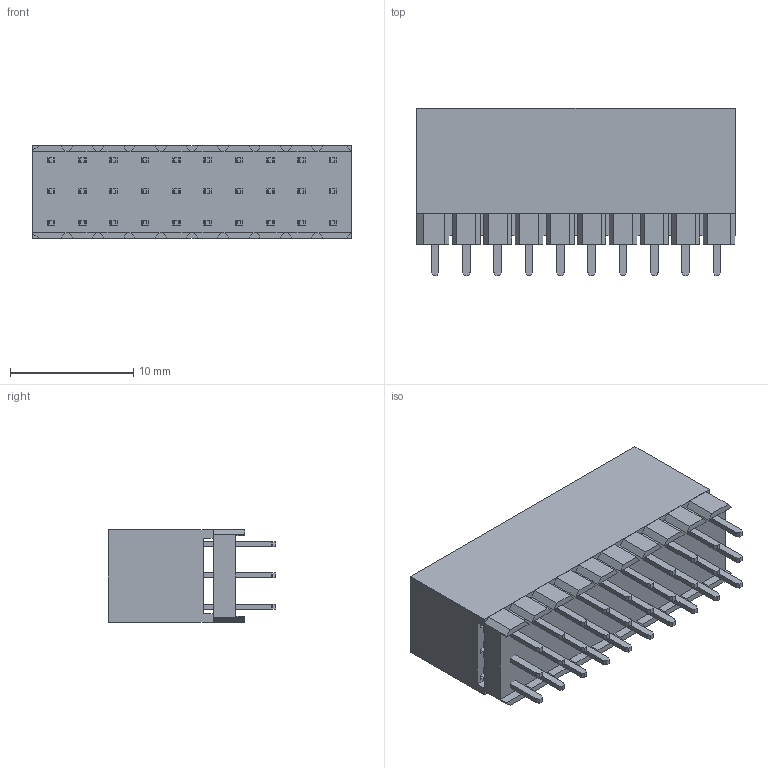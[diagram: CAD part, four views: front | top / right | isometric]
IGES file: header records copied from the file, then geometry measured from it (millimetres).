
Start section: SolidWorks IGES file using analytic representation for surfaces
Global section: file name: D:\RD\品管\3DS\未歸檔資料\2047-3X10G00S1U\2047-3X10C00S1U.IGS; native system: SolidWorks 2011; preprocessor: SolidWorks 2011; author: rd03; date: 150602.163459; units: millimetre
Bounding box: 25.8 x 13.58 x 7.5 mm (x, y, z)
Surface area: 3913.4 mm2 (no closed solid volume)
Topology: 0 solids, 0 shells, 2192 faces, 12436 edges, 12436 vertices
Faces by surface type: bspline 1802, revolution 390
